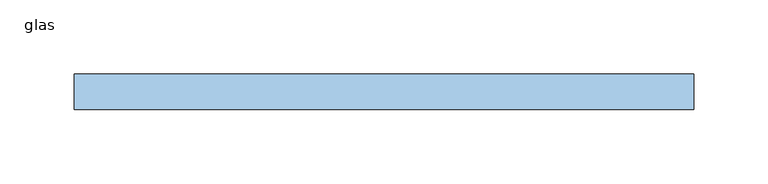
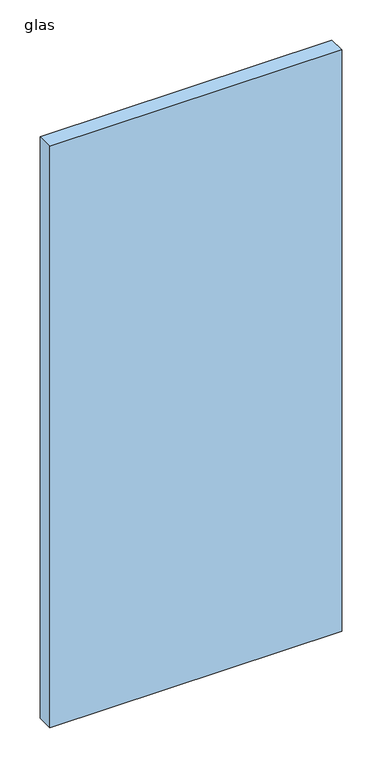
"""IFC4 building model written with IfcOpenShell, lengths in millimetres: window geometry, 300_31_ISR_vlakvulling : glas."""

from ifc_helpers import new_model, si_unit, origin, origin_with_axes, place, context, project, spatial, polyline, outline, extrude, source, transform, mapped, element, save


def glas_7a6249c6(model_context):
    return source(origin(), model_context, "Body", "SweptSolid", [
        extrude(outline(polyline([(-209.0, 20.3546226), (-209.0, 44.3546226), (209.0, 44.3546226), (209.0, 20.3546226), (-209.0, 20.3546226)])), origin_with_axes(), (0.0, 0.0, 1.0), 881.0),
    ])


if __name__ == "__main__":
    model = new_model("IFC4")
    model_context = context("Model", 3, world=origin())
    ifc_project = project(units=[si_unit("LENGTHUNIT", "METRE", prefix="MILLI")], contexts=[model_context])
    site = spatial("IfcSite", under=ifc_project)
    building = spatial("IfcBuilding", under=site)
    placement = place(None, origin())
    glas_shape = glas_7a6249c6(model_context)
    element("IfcWindow", 1, ObjectType="300_31_ISR_vlakvulling : glas", at=placement, inside=building, context=model_context, shape_type="MappedRepresentation", body=[
        mapped(glas_shape, transform((0.0, 0.0, 0.0), x_axis=(1.0, 0.0, 0.0), y_axis=(0.0, 1.0, 0.0), z_axis=(0.0, 0.0, 1.0))),
    ])
    save(model, "model.ifc")
